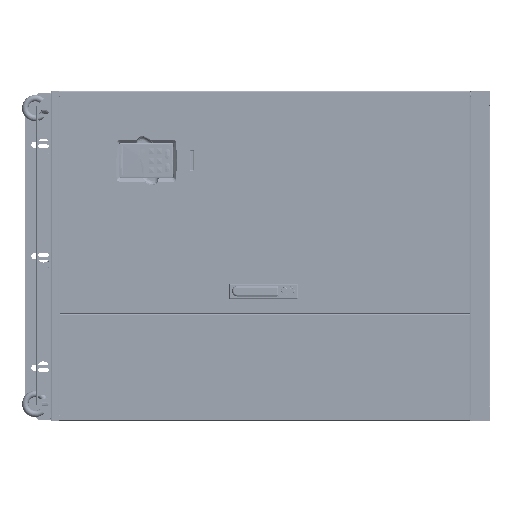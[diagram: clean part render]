
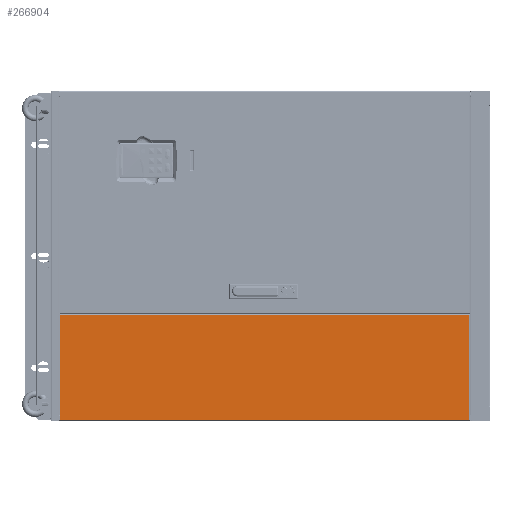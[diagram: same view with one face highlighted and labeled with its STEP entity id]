
A CAD part, top view. The second image highlights one B-rep face of the part: STEP entity #266904.
In plain terms, the highlighted planar face has unit normal (0, 0, 1) as drawn and (0, 1, 0) by its records, which use the part's own axes.
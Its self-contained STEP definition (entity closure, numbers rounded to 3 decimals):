
#265532=DIRECTION('',(0.,0.,1.));
#265533=VECTOR('',#265532,216.6);
#265534=CARTESIAN_POINT('',(-421.3,0.,-108.3));
#265535=LINE('',#265534,#265533);
#265604=DIRECTION('',(1.,0.,0.));
#265605=VECTOR('',#265604,842.6);
#265606=CARTESIAN_POINT('',(-421.3,0.,108.3));
#265607=LINE('',#265606,#265605);
#265650=DIRECTION('',(0.,0.,-1.));
#265651=VECTOR('',#265650,216.6);
#265652=CARTESIAN_POINT('',(421.3,0.,108.3));
#265653=LINE('',#265652,#265651);
#265898=DIRECTION('',(1.,0.,0.));
#265899=VECTOR('',#265898,842.6);
#265900=CARTESIAN_POINT('',(-421.3,0.,-108.3));
#265901=LINE('',#265900,#265899);
#266661=CARTESIAN_POINT('',(-421.3,0.,-108.3));
#266662=VERTEX_POINT('',#266661);
#266665=CARTESIAN_POINT('',(-421.3,0.,108.3));
#266666=VERTEX_POINT('',#266665);
#266693=CARTESIAN_POINT('',(421.3,0.,108.3));
#266694=VERTEX_POINT('',#266693);
#266697=CARTESIAN_POINT('',(421.3,0.,-108.3));
#266698=VERTEX_POINT('',#266697);
#266889=CARTESIAN_POINT('',(0.,0.,0.));
#266890=DIRECTION('',(0.,1.,0.));
#266891=DIRECTION('',(1.,0.,0.));
#266892=AXIS2_PLACEMENT_3D('',#266889,#266890,#266891);
#266893=PLANE('',#266892);
#266895=ORIENTED_EDGE('',*,*,#266894,.F.);
#266897=ORIENTED_EDGE('',*,*,#266896,.T.);
#266899=ORIENTED_EDGE('',*,*,#266898,.F.);
#266901=ORIENTED_EDGE('',*,*,#266900,.F.);
#266902=EDGE_LOOP('',(#266895,#266897,#266899,#266901));
#266903=FACE_OUTER_BOUND('',#266902,.F.);
#266894=EDGE_CURVE('',#266662,#266666,#265535,.T.);
#266896=EDGE_CURVE('',#266662,#266698,#265901,.T.);
#266898=EDGE_CURVE('',#266694,#266698,#265653,.T.);
#266900=EDGE_CURVE('',#266666,#266694,#265607,.T.);
#266904=ADVANCED_FACE('',(#266903),#266893,.T.);
